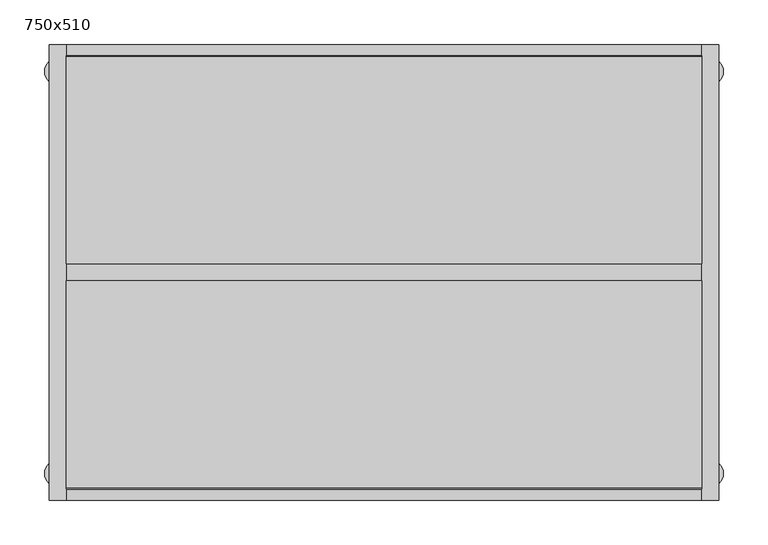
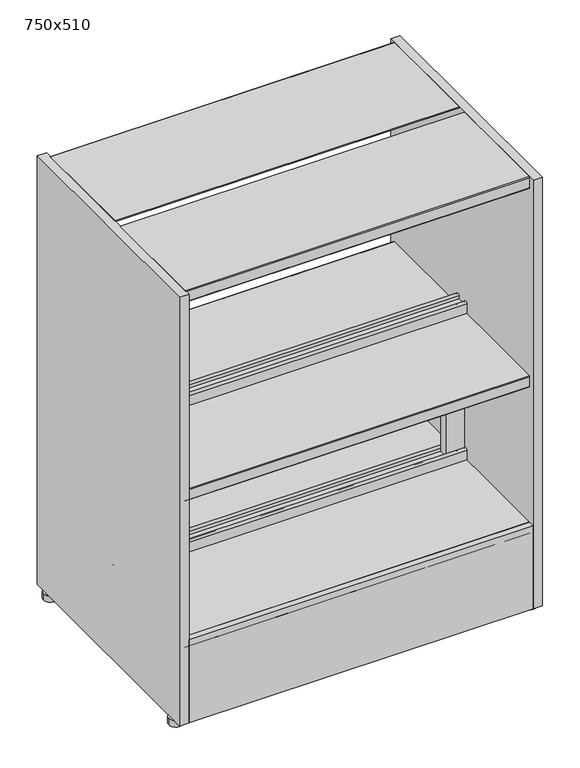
"""IFC4 building model written with IfcOpenShell, lengths in millimetres: furniture geometry, BK Library - Rondus DS - 950 : 750x510."""

from ifc_helpers import new_model, si_unit, point, frame, frame_2d, origin, origin_with_axes, place, context, project, spatial, polyline, circle_curve, trimmed, segment, composite_curve, outline, extrude, source, transform, mapped, element, save


def furniture_750x510_94e61f0f(model_context):
    return source(origin(), model_context, "Body", "SweptSolid", [
        extrude(outline(polyline([(356.0, 255.0), (356.0, 242.7476624), (-356.0, 242.7476624), (-356.0, 255.0), (356.0, 255.0)])), frame((0.0, 0.0, 13.6999998), z_axis=(0.0, 0.0, 1.0), x_axis=(1.0, 0.0, 0.0)), (0.0, 0.0, 1.0), 181.4999514),
        extrude(outline(polyline([(356.0, -242.7476624), (356.0, -255.0), (-356.0, -255.0), (-356.0, -242.7476624), (356.0, -242.7476624)])), frame((0.0, 0.0, 13.6999998), z_axis=(0.0, 0.0, 1.0), x_axis=(1.0, 0.0, 0.0)), (0.0, 0.0, 1.0), 181.4999514),
        extrude(outline(polyline([(530.699951, -356.0), (170.699951, -356.0), (170.699951, 356.0), (530.699951, 356.0), (530.699951, -356.0)]), holes=[polyline([(490.6999512, -317.5), (490.6999512, 317.5), (210.6999512, 317.5), (210.6999512, -317.5), (490.6999512, -317.5)])]), frame((0.0, -9.5, 0.0), z_axis=(0.0, 1.0, 0.0), x_axis=(0.0, 0.0, 1.0)), (0.0, 0.0, 1.0), 19.0),
        extrude(outline(composite_curve([segment(polyline([(9.5, 950.0), (241.25, 950.0)]), True, "CONTINUOUS"), segment(trimmed(circle_curve(frame_2d((241.25, 948.5)), 1.5), [point((241.25, 950.0))], [point((242.75, 948.5))], False, "CARTESIAN"), True, "CONTINUOUS"), segment(polyline([(242.75, 948.5), (242.75, 926.5)]), True, "CONTINUOUS"), segment(trimmed(circle_curve(frame_2d((241.25, 926.5)), 1.5), [point((242.75, 926.5))], [point((241.25, 925.0))], False, "CARTESIAN"), True, "CONTINUOUS"), segment(polyline([(241.25, 925.0), (229.25, 925.0), (229.25, 926.5), (241.25, 926.5), (241.25, 948.0), (9.5, 948.0), (9.5, 950.0)]), True, "CONTINUOUS")], self_intersect=False)), frame((-356.0, 0.0, 0.0), z_axis=(1.0, 0.0, 0.0), x_axis=(0.0, 1.0, 0.0)), (0.0, 0.0, 1.0), 712.0),
        extrude(outline(composite_curve([segment(polyline([(17.75, 515.1999512), (241.25, 515.1999512)]), True, "CONTINUOUS"), segment(trimmed(circle_curve(frame_2d((241.25, 513.6999512)), 1.5), [point((241.25, 515.1999512))], [point((242.75, 513.6999512))], False, "CARTESIAN"), True, "CONTINUOUS"), segment(polyline([(242.75, 513.6999512), (242.75, 492.1999512)]), True, "CONTINUOUS"), segment(trimmed(circle_curve(frame_2d((241.25, 492.1999512)), 1.5), [point((242.75, 492.1999512))], [point((241.25, 490.6999512))], False, "CARTESIAN"), True, "CONTINUOUS"), segment(polyline([(241.25, 490.6999512), (229.25, 490.6999512), (229.25, 492.1999512), (241.25, 492.1999512), (241.25, 513.6999512), (17.7048221, 513.6999512)]), True, "CONTINUOUS"), segment(trimmed(circle_curve(frame_2d((17.7048221, 515.1547733)), 1.4548221), [point((17.7048221, 513.6999512))], [point((16.25, 515.1547733))], False, "CARTESIAN"), True, "CONTINUOUS"), segment(polyline([(16.25, 515.1547733), (16.25, 536.7020126)]), True, "CONTINUOUS"), segment(trimmed(circle_curve(frame_2d((14.25, 536.7020126)), 2.0), [point((16.25, 536.7020126))], [point((12.25, 536.7020126))], True, "CARTESIAN"), True, "CONTINUOUS"), segment(polyline([(12.25, 536.7020126), (12.25, 528.1999512), (10.75, 528.1999512), (10.75, 536.7196336)]), True, "CONTINUOUS"), segment(trimmed(circle_curve(frame_2d((14.25, 536.7196336)), 3.5), [point((10.75, 536.7196336))], [point((17.75, 536.7196336))], False, "CARTESIAN"), True, "CONTINUOUS"), segment(polyline([(17.75, 536.7196336), (17.75, 515.1999512)]), True, "CONTINUOUS")], self_intersect=False)), frame((-356.0, 0.0, 0.0), z_axis=(1.0, 0.0, 0.0), x_axis=(0.0, 1.0, 0.0)), (0.0, 0.0, 1.0), 712.0),
        extrude(outline(composite_curve([segment(polyline([(17.75, 195.1999512), (241.25, 195.1999512)]), True, "CONTINUOUS"), segment(trimmed(circle_curve(frame_2d((241.25, 193.6999512)), 1.5), [point((241.25, 195.1999512))], [point((242.75, 193.6999512))], False, "CARTESIAN"), True, "CONTINUOUS"), segment(polyline([(242.75, 193.6999512), (242.75, 172.1999512)]), True, "CONTINUOUS"), segment(trimmed(circle_curve(frame_2d((241.25, 172.1999512)), 1.5), [point((242.75, 172.1999512))], [point((241.25, 170.6999512))], False, "CARTESIAN"), True, "CONTINUOUS"), segment(polyline([(241.25, 170.6999512), (229.25, 170.6999512), (229.25, 172.1999512), (241.25, 172.1999512), (241.25, 193.6999512), (17.7048221, 193.6999512)]), True, "CONTINUOUS"), segment(trimmed(circle_curve(frame_2d((17.7048221, 195.1547733)), 1.4548221), [point((17.7048221, 193.6999512))], [point((16.25, 195.1547733))], False, "CARTESIAN"), True, "CONTINUOUS"), segment(polyline([(16.25, 195.1547733), (16.25, 216.7020126)]), True, "CONTINUOUS"), segment(trimmed(circle_curve(frame_2d((14.25, 216.7020126)), 2.0), [point((16.25, 216.7020126))], [point((12.25, 216.7020126))], True, "CARTESIAN"), True, "CONTINUOUS"), segment(polyline([(12.25, 216.7020126), (12.25, 208.1999512), (10.75, 208.1999512), (10.75, 216.7196336)]), True, "CONTINUOUS"), segment(trimmed(circle_curve(frame_2d((14.25, 216.7196336)), 3.5), [point((10.75, 216.7196336))], [point((17.75, 216.7196336))], False, "CARTESIAN"), True, "CONTINUOUS"), segment(polyline([(17.75, 216.7196336), (17.75, 195.1999512)]), True, "CONTINUOUS")], self_intersect=False)), frame((-356.0, 0.0, 0.0), z_axis=(1.0, 0.0, 0.0), x_axis=(0.0, 1.0, 0.0)), (0.0, 0.0, 1.0), 712.0),
        extrude(outline(composite_curve([segment(polyline([(-9.5, 950.0), (-9.5, 948.0), (-241.25, 948.0), (-241.25, 926.5), (-229.25, 926.5), (-229.25, 925.0), (-241.25, 925.0)]), True, "CONTINUOUS"), segment(trimmed(circle_curve(frame_2d((-241.25, 926.5)), 1.5), [point((-241.25, 925.0))], [point((-242.75, 926.5))], False, "CARTESIAN"), True, "CONTINUOUS"), segment(polyline([(-242.75, 926.5), (-242.75, 948.5)]), True, "CONTINUOUS"), segment(trimmed(circle_curve(frame_2d((-241.25, 948.5)), 1.5), [point((-242.75, 948.5))], [point((-241.25, 950.0))], False, "CARTESIAN"), True, "CONTINUOUS"), segment(polyline([(-241.25, 950.0), (-9.5, 950.0)]), True, "CONTINUOUS")], self_intersect=False)), frame((-356.0, 0.0, 0.0), z_axis=(1.0, 0.0, 0.0), x_axis=(0.0, 1.0, 0.0)), (0.0, 0.0, 1.0), 712.0),
        extrude(outline(composite_curve([segment(polyline([(-17.75, 515.1999512), (-17.75, 536.7196336)]), True, "CONTINUOUS"), segment(trimmed(circle_curve(frame_2d((-14.25, 536.7196336)), 3.5), [point((-17.75, 536.7196336))], [point((-10.75, 536.7196336))], False, "CARTESIAN"), True, "CONTINUOUS"), segment(polyline([(-10.75, 536.7196336), (-10.75, 528.1999512), (-12.25, 528.1999512), (-12.25, 536.7020126)]), True, "CONTINUOUS"), segment(trimmed(circle_curve(frame_2d((-14.25, 536.7020126)), 2.0), [point((-12.25, 536.7020126))], [point((-16.25, 536.7020126))], True, "CARTESIAN"), True, "CONTINUOUS"), segment(polyline([(-16.25, 536.7020126), (-16.25, 515.1547733)]), True, "CONTINUOUS"), segment(trimmed(circle_curve(frame_2d((-17.7048221, 515.1547733)), 1.4548221), [point((-16.25, 515.1547733))], [point((-17.7048221, 513.6999512))], False, "CARTESIAN"), True, "CONTINUOUS"), segment(polyline([(-17.7048221, 513.6999512), (-241.25, 513.6999512), (-241.25, 492.1999512), (-229.25, 492.1999512), (-229.25, 490.6999512), (-241.25, 490.6999512)]), True, "CONTINUOUS"), segment(trimmed(circle_curve(frame_2d((-241.25, 492.1999512)), 1.5), [point((-241.25, 490.6999512))], [point((-242.75, 492.1999512))], False, "CARTESIAN"), True, "CONTINUOUS"), segment(polyline([(-242.75, 492.1999512), (-242.75, 513.6999512)]), True, "CONTINUOUS"), segment(trimmed(circle_curve(frame_2d((-241.25, 513.6999512)), 1.5), [point((-242.75, 513.6999512))], [point((-241.25, 515.1999512))], False, "CARTESIAN"), True, "CONTINUOUS"), segment(polyline([(-241.25, 515.1999512), (-17.75, 515.1999512)]), True, "CONTINUOUS")], self_intersect=False)), frame((-356.0, 0.0, 0.0), z_axis=(1.0, 0.0, 0.0), x_axis=(0.0, 1.0, 0.0)), (0.0, 0.0, 1.0), 712.0),
        extrude(outline(composite_curve([segment(polyline([(-17.75, 195.1999512), (-17.75, 216.7196336)]), True, "CONTINUOUS"), segment(trimmed(circle_curve(frame_2d((-14.25, 216.7196336)), 3.5), [point((-17.75, 216.7196336))], [point((-10.75, 216.7196336))], False, "CARTESIAN"), True, "CONTINUOUS"), segment(polyline([(-10.75, 216.7196336), (-10.75, 208.1999512), (-12.25, 208.1999512), (-12.25, 216.7020126)]), True, "CONTINUOUS"), segment(trimmed(circle_curve(frame_2d((-14.25, 216.7020126)), 2.0), [point((-12.25, 216.7020126))], [point((-16.25, 216.7020126))], True, "CARTESIAN"), True, "CONTINUOUS"), segment(polyline([(-16.25, 216.7020126), (-16.25, 195.1547733)]), True, "CONTINUOUS"), segment(trimmed(circle_curve(frame_2d((-17.7048221, 195.1547733)), 1.4548221), [point((-16.25, 195.1547733))], [point((-17.7048221, 193.6999512))], False, "CARTESIAN"), True, "CONTINUOUS"), segment(polyline([(-17.7048221, 193.6999512), (-241.25, 193.6999512), (-241.25, 172.1999512), (-229.25, 172.1999512), (-229.25, 170.6999512), (-241.25, 170.6999512)]), True, "CONTINUOUS"), segment(trimmed(circle_curve(frame_2d((-241.25, 172.1999512)), 1.5), [point((-241.25, 170.6999512))], [point((-242.75, 172.1999512))], False, "CARTESIAN"), True, "CONTINUOUS"), segment(polyline([(-242.75, 172.1999512), (-242.75, 193.6999512)]), True, "CONTINUOUS"), segment(trimmed(circle_curve(frame_2d((-241.25, 193.6999512)), 1.5), [point((-242.75, 193.6999512))], [point((-241.25, 195.1999512))], False, "CARTESIAN"), True, "CONTINUOUS"), segment(polyline([(-241.25, 195.1999512), (-17.75, 195.1999512)]), True, "CONTINUOUS")], self_intersect=False)), frame((-356.0, 0.0, 0.0), z_axis=(1.0, 0.0, 0.0), x_axis=(0.0, 1.0, 0.0)), (0.0, 0.0, 1.0), 712.0),
        extrude(outline(polyline([(356.0, 255.0), (375.0, 255.0), (375.0, -255.0), (356.0, -255.0), (356.0, 255.0)])), frame((0.0, 0.0, 13.6999998), z_axis=(0.0, 0.0, 1.0), x_axis=(1.0, 0.0, 0.0)), (0.0, 0.0, 1.0), 936.3000002),
        extrude(outline(polyline([(-356.0, 255.0), (-356.0, -255.0), (-375.0, -255.0), (-375.0, 255.0), (-356.0, 255.0)])), frame((0.0, 0.0, 13.6999998), z_axis=(0.0, 0.0, 1.0), x_axis=(1.0, 0.0, 0.0)), (0.0, 0.0, 1.0), 936.3000002),
        extrude(outline(composite_curve([segment(trimmed(circle_curve(frame_2d((365.5005427, 224.9952633)), 14.4994573), [point((380.0, 224.9952633))], [point((351.0010853, 224.9952633))], False, "CARTESIAN"), True, "CONTINUOUS"), segment(trimmed(circle_curve(frame_2d((365.5005427, 224.9952633)), 14.4994573), [point((351.0010853, 224.9952633))], [point((380.0, 224.9952633))], False, "CARTESIAN"), True, "CONTINUOUS")], self_intersect=False)), origin_with_axes(), (0.0, 0.0, 1.0), 13.6999998),
        extrude(outline(composite_curve([segment(trimmed(circle_curve(frame_2d((-365.5005427, 224.9952633)), 14.4994573), [point((-380.0, 224.9952633))], [point((-351.0010853, 224.9952633))], False, "CARTESIAN"), True, "CONTINUOUS"), segment(trimmed(circle_curve(frame_2d((-365.5005427, 224.9952633)), 14.4994573), [point((-351.0010853, 224.9952633))], [point((-380.0, 224.9952633))], False, "CARTESIAN"), True, "CONTINUOUS")], self_intersect=False)), origin_with_axes(), (0.0, 0.0, 1.0), 13.6999998),
        extrude(outline(composite_curve([segment(trimmed(circle_curve(frame_2d((365.5005427, -224.9952633)), 14.4994573), [point((380.0, -224.9952633))], [point((351.0010853, -224.9952633))], False, "CARTESIAN"), True, "CONTINUOUS"), segment(trimmed(circle_curve(frame_2d((365.5005427, -224.9952633)), 14.4994573), [point((351.0010853, -224.9952633))], [point((380.0, -224.9952633))], False, "CARTESIAN"), True, "CONTINUOUS")], self_intersect=False)), origin_with_axes(), (0.0, 0.0, 1.0), 13.6999998),
        extrude(outline(composite_curve([segment(trimmed(circle_curve(frame_2d((-365.5005427, -224.9952633)), 14.4994573), [point((-380.0, -224.9952633))], [point((-351.0010853, -224.9952633))], False, "CARTESIAN"), True, "CONTINUOUS"), segment(trimmed(circle_curve(frame_2d((-365.5005427, -224.9952633)), 14.4994573), [point((-351.0010853, -224.9952633))], [point((-380.0, -224.9952633))], False, "CARTESIAN"), True, "CONTINUOUS")], self_intersect=False)), origin_with_axes(), (0.0, 0.0, 1.0), 13.6999998),
    ])


if __name__ == "__main__":
    model = new_model("IFC4")
    model_context = context("Model", 3, world=origin())
    ifc_project = project(units=[si_unit("LENGTHUNIT", "METRE", prefix="MILLI")], contexts=[model_context])
    site = spatial("IfcSite", under=ifc_project)
    building = spatial("IfcBuilding", under=site)
    placement = place(None, origin())
    furniture_750x510_shape = furniture_750x510_94e61f0f(model_context)
    element("IfcFurniture", 1, ObjectType="BK Library - Rondus DS - 950 : 750x510", at=placement, inside=building, context=model_context, shape_type="MappedRepresentation", body=[
        mapped(furniture_750x510_shape, transform((0.0, 0.0, 0.0), x_axis=(1.0, 0.0, 0.0), y_axis=(0.0, 1.0, 0.0), z_axis=(0.0, 0.0, 1.0))),
    ])
    save(model, "model.ifc")
